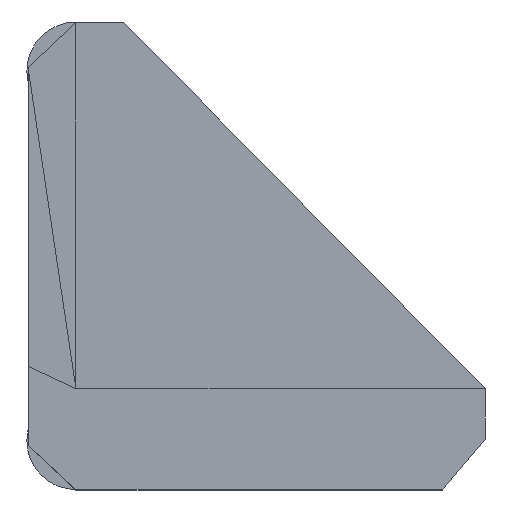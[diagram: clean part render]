
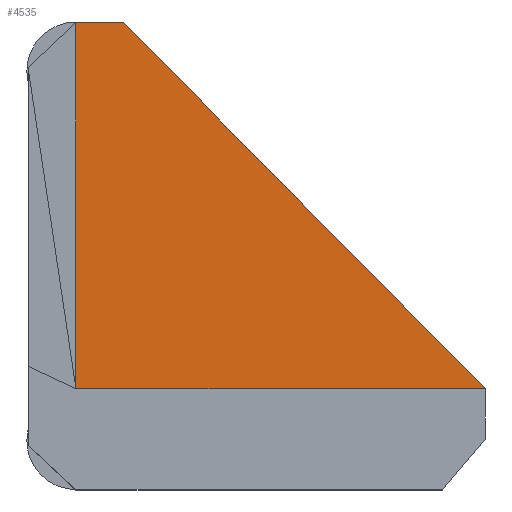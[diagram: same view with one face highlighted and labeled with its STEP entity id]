
A CAD part, front view. The second image highlights one B-rep face of the part: STEP entity #4535.
In plain terms, the highlighted planar face has unit normal (0, -1, 0).
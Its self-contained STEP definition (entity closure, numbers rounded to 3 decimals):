
#128 = PLANE('',#129);
#129 = AXIS2_PLACEMENT_3D('',#130,#131,#132);
#130 = CARTESIAN_POINT('',(18.102,-4.7,8.549
    ));
#131 = DIRECTION('',(0.,0.,1.));
#132 = DIRECTION('',(1.,0.,0.));
#2807 = VERTEX_POINT('',#2808);
#2808 = CARTESIAN_POINT('',(29.903,-5.944,
    -2.422));
#2822 = PLANE('',#2823);
#2823 = AXIS2_PLACEMENT_3D('',#2824,#2825,#2826);
#2824 = CARTESIAN_POINT('',(24.154,-4.476,3.396
    ));
#2825 = DIRECTION('',(0.711,0.,0.703)
  );
#2826 = DIRECTION('',(-0.703,0.,0.711)
  );
#2848 = PLANE('',#2849);
#2849 = AXIS2_PLACEMENT_3D('',#2850,#2851,#2852);
#2850 = CARTESIAN_POINT('',(24.122,-5.944,
    -2.826));
#2851 = DIRECTION('',(0.,-1.,0.));
#2852 = DIRECTION('',(0.,-0.,-1.));
#2864 = EDGE_CURVE('',#2865,#2807,#2867,.T.);
#2865 = VERTEX_POINT('',#2866);
#2866 = CARTESIAN_POINT('',(17.628,-5.944,-2.422));
#2867 = SURFACE_CURVE('',#2868,(#2872,#2879),.PCURVE_S1.);
#2868 = LINE('',#2869,#2870);
#2869 = CARTESIAN_POINT('',(17.628,-5.944,-2.422));
#2870 = VECTOR('',#2871,1.);
#2871 = DIRECTION('',(1.,0.,0.));
#2872 = PCURVE('',#2848,#2873);
#2873 = DEFINITIONAL_REPRESENTATION('',(#2874),#2878);
#2874 = LINE('',#2875,#2876);
#2875 = CARTESIAN_POINT('',(-0.404,-6.494));
#2876 = VECTOR('',#2877,1.);
#2877 = DIRECTION('',(0.,1.));
#2878 = ( GEOMETRIC_REPRESENTATION_CONTEXT(2) 
PARAMETRIC_REPRESENTATION_CONTEXT() REPRESENTATION_CONTEXT('2D SPACE',''
  ) );
#2879 = PCURVE('',#2880,#2885);
#2880 = PLANE('',#2881);
#2881 = AXIS2_PLACEMENT_3D('',#2882,#2883,#2884);
#2882 = CARTESIAN_POINT('',(23.864,-5.944,
    3.3));
#2883 = DIRECTION('',(0.,-1.,0.));
#2884 = DIRECTION('',(0.,0.,-1.));
#2885 = DEFINITIONAL_REPRESENTATION('',(#2886),#2890);
#2886 = LINE('',#2887,#2888);
#2887 = CARTESIAN_POINT('',(5.722,-6.236));
#2888 = VECTOR('',#2889,1.);
#2889 = DIRECTION('',(0.,1.));
#2890 = ( GEOMETRIC_REPRESENTATION_CONTEXT(2) 
PARAMETRIC_REPRESENTATION_CONTEXT() REPRESENTATION_CONTEXT('2D SPACE',''
  ) );
#4364 = VERTEX_POINT('',#4365);
#4365 = CARTESIAN_POINT('',(17.628,-5.944,8.549));
#4424 = PLANE('',#4425);
#4425 = AXIS2_PLACEMENT_3D('',#4426,#4427,#4428);
#4426 = CARTESIAN_POINT('',(17.258,-5.944,
    3.193));
#4427 = DIRECTION('',(0.,-1.,0.));
#4428 = DIRECTION('',(0.,0.,-1.));
#4439 = EDGE_CURVE('',#2865,#4364,#4440,.T.);
#4440 = SURFACE_CURVE('',#4441,(#4445,#4452),.PCURVE_S1.);
#4441 = LINE('',#4442,#4443);
#4442 = CARTESIAN_POINT('',(17.628,-5.944,-2.422));
#4443 = VECTOR('',#4444,1.);
#4444 = DIRECTION('',(0.,0.,1.));
#4445 = PCURVE('',#4424,#4446);
#4446 = DEFINITIONAL_REPRESENTATION('',(#4447),#4451);
#4447 = LINE('',#4448,#4449);
#4448 = CARTESIAN_POINT('',(5.616,0.37));
#4449 = VECTOR('',#4450,1.);
#4450 = DIRECTION('',(-1.,0.));
#4451 = ( GEOMETRIC_REPRESENTATION_CONTEXT(2) 
PARAMETRIC_REPRESENTATION_CONTEXT() REPRESENTATION_CONTEXT('2D SPACE',''
  ) );
#4452 = PCURVE('',#2880,#4453);
#4453 = DEFINITIONAL_REPRESENTATION('',(#4454),#4458);
#4454 = LINE('',#4455,#4456);
#4455 = CARTESIAN_POINT('',(5.722,-6.236));
#4456 = VECTOR('',#4457,1.);
#4457 = DIRECTION('',(-1.,0.));
#4458 = ( GEOMETRIC_REPRESENTATION_CONTEXT(2) 
PARAMETRIC_REPRESENTATION_CONTEXT() REPRESENTATION_CONTEXT('2D SPACE',''
  ) );
#4535 = ADVANCED_FACE('',(#4536),#2880,.T.);
#4536 = FACE_BOUND('',#4537,.T.);
#4537 = EDGE_LOOP('',(#4538,#4561,#4582,#4583));
#4538 = ORIENTED_EDGE('',*,*,#4539,.F.);
#4539 = EDGE_CURVE('',#4540,#2807,#4542,.T.);
#4540 = VERTEX_POINT('',#4541);
#4541 = CARTESIAN_POINT('',(19.063,-5.944,8.549
    ));
#4542 = SURFACE_CURVE('',#4543,(#4547,#4554),.PCURVE_S1.);
#4543 = LINE('',#4544,#4545);
#4544 = CARTESIAN_POINT('',(19.063,-5.944,8.549
    ));
#4545 = VECTOR('',#4546,1.);
#4546 = DIRECTION('',(0.703,0.,-0.711)
  );
#4547 = PCURVE('',#2880,#4548);
#4548 = DEFINITIONAL_REPRESENTATION('',(#4549),#4553);
#4549 = LINE('',#4550,#4551);
#4550 = CARTESIAN_POINT('',(-5.249,-4.801));
#4551 = VECTOR('',#4552,1.);
#4552 = DIRECTION('',(0.711,0.703));
#4553 = ( GEOMETRIC_REPRESENTATION_CONTEXT(2) 
PARAMETRIC_REPRESENTATION_CONTEXT() REPRESENTATION_CONTEXT('2D SPACE',''
  ) );
#4554 = PCURVE('',#2822,#4555);
#4555 = DEFINITIONAL_REPRESENTATION('',(#4556),#4560);
#4556 = LINE('',#4557,#4558);
#4557 = CARTESIAN_POINT('',(7.244,1.468));
#4558 = VECTOR('',#4559,1.);
#4559 = DIRECTION('',(-1.,0.));
#4560 = ( GEOMETRIC_REPRESENTATION_CONTEXT(2) 
PARAMETRIC_REPRESENTATION_CONTEXT() REPRESENTATION_CONTEXT('2D SPACE',''
  ) );
#4561 = ORIENTED_EDGE('',*,*,#4562,.F.);
#4562 = EDGE_CURVE('',#4364,#4540,#4563,.T.);
#4563 = SURFACE_CURVE('',#4564,(#4568,#4575),.PCURVE_S1.);
#4564 = LINE('',#4565,#4566);
#4565 = CARTESIAN_POINT('',(17.628,-5.944,8.549));
#4566 = VECTOR('',#4567,1.);
#4567 = DIRECTION('',(1.,0.,0.));
#4568 = PCURVE('',#2880,#4569);
#4569 = DEFINITIONAL_REPRESENTATION('',(#4570),#4574);
#4570 = LINE('',#4571,#4572);
#4571 = CARTESIAN_POINT('',(-5.249,-6.236));
#4572 = VECTOR('',#4573,1.);
#4573 = DIRECTION('',(0.,1.));
#4574 = ( GEOMETRIC_REPRESENTATION_CONTEXT(2) 
PARAMETRIC_REPRESENTATION_CONTEXT() REPRESENTATION_CONTEXT('2D SPACE',''
  ) );
#4575 = PCURVE('',#128,#4576);
#4576 = DEFINITIONAL_REPRESENTATION('',(#4577),#4581);
#4577 = LINE('',#4578,#4579);
#4578 = CARTESIAN_POINT('',(-0.474,-1.243));
#4579 = VECTOR('',#4580,1.);
#4580 = DIRECTION('',(1.,0.));
#4581 = ( GEOMETRIC_REPRESENTATION_CONTEXT(2) 
PARAMETRIC_REPRESENTATION_CONTEXT() REPRESENTATION_CONTEXT('2D SPACE',''
  ) );
#4582 = ORIENTED_EDGE('',*,*,#4439,.F.);
#4583 = ORIENTED_EDGE('',*,*,#2864,.T.);
